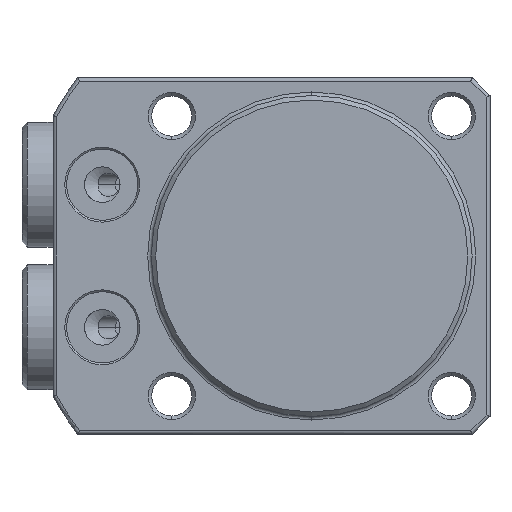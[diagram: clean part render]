
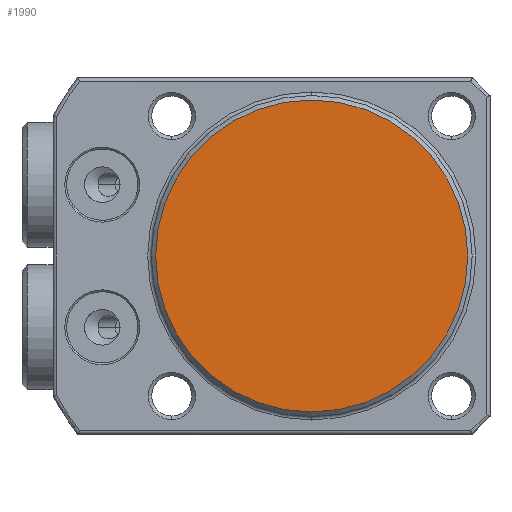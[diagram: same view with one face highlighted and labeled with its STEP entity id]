
A CAD part, front view. The second image highlights one B-rep face of the part: STEP entity #1990.
In plain terms, the highlighted planar face has unit normal (0, -1, 0).
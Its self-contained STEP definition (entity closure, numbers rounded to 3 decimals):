
#1673=PLANE('',#6901);
#1990=ADVANCED_FACE('',(#2384),#1673,.F.);
#2384=FACE_OUTER_BOUND('',#2739,.T.);
#2739=EDGE_LOOP('',(#4779));
#4779=ORIENTED_EDGE('',*,*,#5956,.T.);
#5227=VERTEX_POINT('',#11437);
#5956=EDGE_CURVE('',#5227,#5227,#6279,.T.);
#6279=CIRCLE('',#6900,17.5);
#6900=AXIS2_PLACEMENT_3D('',#11436,#8450,#8451);
#6901=AXIS2_PLACEMENT_3D('',#11438,#8452,#8453);
#8450=DIRECTION('',(0.,-1.,0.));
#8451=DIRECTION('',(0.,0.,1.));
#8452=DIRECTION('',(0.,1.,0.));
#8453=DIRECTION('',(0.,0.,-1.));
#11436=CARTESIAN_POINT('',(0.,-6.,0.));
#11437=CARTESIAN_POINT('',(0.,-6.,17.5));
#11438=CARTESIAN_POINT('',(11.75,-6.,0.));
